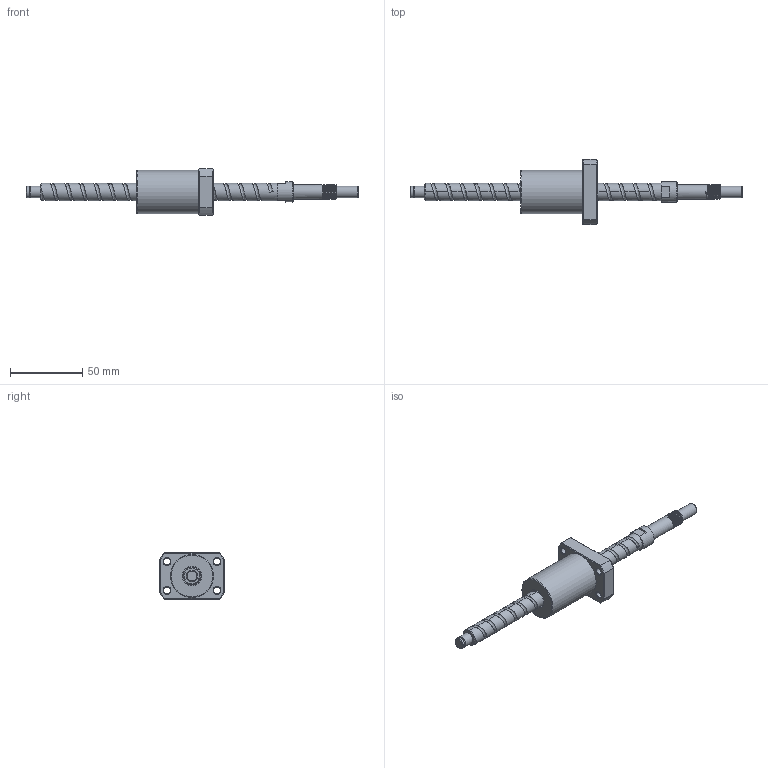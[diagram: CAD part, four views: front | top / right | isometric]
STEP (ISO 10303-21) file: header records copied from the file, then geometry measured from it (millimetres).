
FILE_DESCRIPTION (( 'STEP AP203' ), '1' );
FILE_NAME ('XSVR01210B1DGC5-230-P1.step', '2024-06-03T03:44:10', ( '' ), ( '' ), 'SwSTEP 2.0', 'SolidWorks 2022', '' );
FILE_SCHEMA (( 'CONFIG_CONTROL_DESIGN' ));
Length unit declared in the file: millimetre
Products named in the file (1): XSVR01210B1DGC5-230-P1
Bounding box: 230 x 45 x 32 mm (x, y, z)
Volume: 58179.8 mm3; surface area: 20022.1 mm2
Topology: 2 solids, 2 shells, 139 faces, 356 edges, 225 vertices
Faces by surface type: cylinder 56, plane 38, bspline 22, cone 14, torus 9
Full cylindrical faces by diameter (mm): 3.998 x1, 4 x2, 4.5 x4, 7.6 x1, 8 x7, 10 x10, 12 x16, 13.5 x1, 14 x1, 30 x1
Entity records: 13737 total; most frequent: CARTESIAN_POINT 11450, ORIENTED_EDGE 464, DIRECTION 394, EDGE_CURVE 232, AXIS2_PLACEMENT_3D 172, EDGE_LOOP 164, VERTEX_POINT 160, FACE_OUTER_BOUND 133
